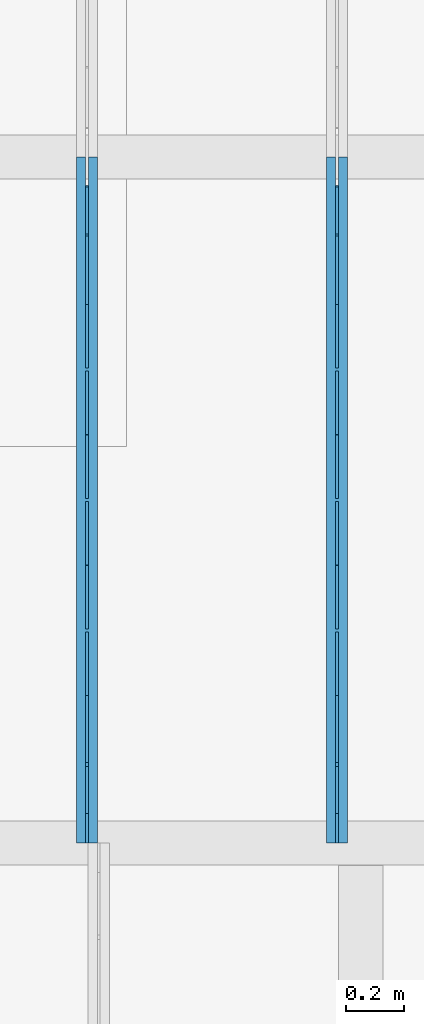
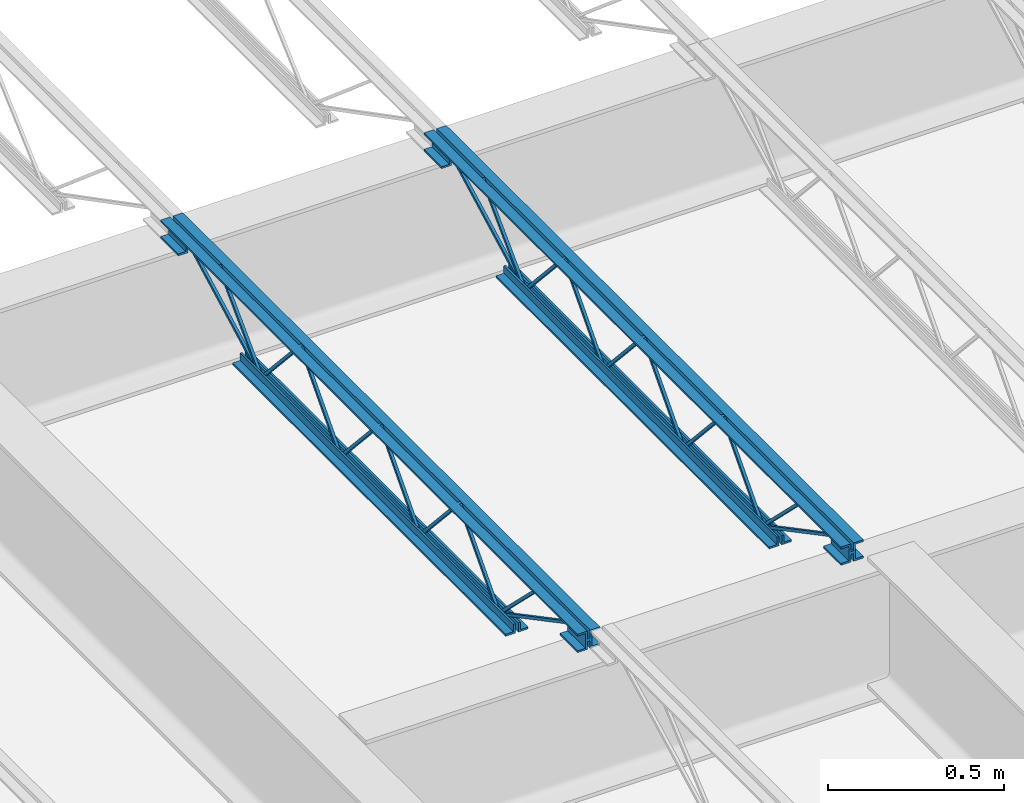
# One storey, part 57 of 75: 2 beams.
"""IFC2X3 building model written with IfcOpenShell, lengths in metres."""

from ifc_helpers import new_model, entity, si_unit, converted_unit, frame, origin, place, context, project, spatial, face_set, surface_model, element, save


model = new_model("IFC2X3")

# Units and contexts
model_context = context("Model", 3, precision=1e-09, world=origin())
plan_context = context("Plan", 3, precision=1e-09, world=origin())
ifc_project = project(units=[si_unit("LENGTHUNIT", "METRE"), si_unit("AREAUNIT", "SQUARE_METRE"), si_unit("VOLUMEUNIT", "CUBIC_METRE"), converted_unit("PLANEANGLEUNIT", "DEGREE", entity("IfcRatioMeasure", 0.01745329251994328), si_unit("PLANEANGLEUNIT", "RADIAN"), dimensions=[0, 0, 0, 0, 0, 0, 0]), si_unit("TIMEUNIT", "SECOND")], contexts=[model_context, plan_context])

# Site, building, storey
site_placement = place(None, origin())
site = spatial("IfcSite", under=ifc_project, at=site_placement, Name="Default", CompositionType="ELEMENT")
building_placement = place(site_placement, origin())
building = spatial("IfcBuilding", under=site, at=building_placement, CompositionType="ELEMENT")
storey_placement = place(building_placement, origin())
storey = spatial("IfcBuildingStorey", under=building, at=storey_placement, Name="First Floor", CompositionType="ELEMENT", Elevation=-3.531500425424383e-13)

# Beams
beam_1_placement = place(storey_placement, frame((-19.23341250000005, 42.41251390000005, 4.214000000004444)))
element("IfcBeam", 1, at=beam_1_placement, inside=storey, Name="M_K-Series Bar Joist-Rod Web:10K1:10K1", ObjectType="M_K-Series Bar Joist-Rod Web:10K1", context=model_context, shape_type="SurfaceModel", body=[
    surface_model("IfcFaceBasedSurfaceModel", [(0.04149999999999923, 0.9583333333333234, 0.01110000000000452), (0.03200000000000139, 0.9583333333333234, 0.01110000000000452), (0.03200000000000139, 0.9583333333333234, 0.001600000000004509), (0.04149999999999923, 0.9583333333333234, 0.001600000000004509), (0.03199999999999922, 0.9594035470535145, 0.01110000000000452), (0.04149999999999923, 0.9594035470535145, 0.01110000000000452), (0.03200000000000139, 0.9636131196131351, 0.001600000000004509), (0.03200000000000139, 1.182429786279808, 0.2429000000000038), (0.03200000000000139, 1.184570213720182, 0.2429000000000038), (0.03200000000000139, 1.403386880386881, 0.001600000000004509), (0.03200000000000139, 1.408666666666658, 0.001600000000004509), (0.03200000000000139, 1.408666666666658, 0.01110000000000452), (0.03200000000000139, 1.40759645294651, 0.01110000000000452), (0.03200000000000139, 1.188779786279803, 0.2524000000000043), (0.03200000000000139, 1.178220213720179, 0.2524000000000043), (0.0415000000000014, 0.9636131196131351, 0.001600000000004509), (0.04149999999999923, 1.1824297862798, 0.2429000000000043), (0.04149999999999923, 1.184570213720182, 0.2429000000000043), (0.04149999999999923, 1.403386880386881, 0.001600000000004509), (0.04149999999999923, 1.408666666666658, 0.001600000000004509), (0.04149999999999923, 1.408666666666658, 0.01110000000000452), (0.04149999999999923, 1.40759645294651, 0.01110000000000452), (0.04149999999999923, 1.188779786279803, 0.2524000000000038), (0.04149999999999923, 1.178220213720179, 0.2524000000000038), (0.04149999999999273, 1.40866666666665, 0.0110999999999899), (0.03199999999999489, 1.40866666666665, 0.0110999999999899), (0.03199999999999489, 1.40866666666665, 0.001599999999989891), (0.04149999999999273, 1.40866666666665, 0.001599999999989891), (0.03199999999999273, 1.409736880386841, 0.0110999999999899), (0.04149999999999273, 1.409736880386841, 0.0110999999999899), (0.03199999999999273, 1.413946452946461, 0.001599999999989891), (0.03199999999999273, 1.632763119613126, 0.2428999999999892), (0.03199999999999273, 1.6349035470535, 0.2428999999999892), (0.03199999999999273, 1.853720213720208, 0.001599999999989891), (0.03199999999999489, 1.858999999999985, 0.001599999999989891), (0.03199999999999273, 1.858999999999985, 0.0110999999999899), (0.03199999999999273, 1.857929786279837, 0.0110999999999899), (0.03199999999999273, 1.639113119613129, 0.2523999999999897), (0.03199999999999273, 1.628553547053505, 0.2523999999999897), (0.04149999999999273, 1.413946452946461, 0.001599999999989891), (0.04149999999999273, 1.632763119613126, 0.2428999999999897), (0.04149999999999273, 1.634903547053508, 0.2428999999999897), (0.04149999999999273, 1.853720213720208, 0.001599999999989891), (0.04149999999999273, 1.858999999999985, 0.001599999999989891), (0.04149999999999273, 1.858999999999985, 0.0110999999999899), (0.04149999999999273, 1.857929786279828, 0.0110999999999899), (0.04149999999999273, 1.639113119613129, 0.2523999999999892), (0.04149999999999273, 1.628553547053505, 0.2523999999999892), (0.04149999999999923, 0.5080000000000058, 0.01110000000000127), (0.03200000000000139, 0.5080000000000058, 0.01110000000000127), (0.03200000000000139, 0.5080000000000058, 0.001600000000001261), (0.04149999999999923, 0.5080000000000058, 0.001600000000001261), (0.03199999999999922, 0.5090702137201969, 0.01110000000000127), (0.04149999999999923, 0.5090702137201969, 0.01110000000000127), (0.03200000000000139, 0.5132797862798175, 0.001600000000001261), (0.03200000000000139, 0.7320964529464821, 0.2429000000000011), (0.03200000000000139, 0.7342368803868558, 0.2429000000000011), (0.03200000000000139, 0.9530535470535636, 0.001600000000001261), (0.03200000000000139, 0.9583333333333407, 0.001600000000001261), (0.03200000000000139, 0.9583333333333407, 0.01110000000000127), (0.03200000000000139, 0.9572631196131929, 0.01110000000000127), (0.03200000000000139, 0.738446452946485, 0.2524000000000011), (0.03200000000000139, 0.7278868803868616, 0.2524000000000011), (0.0415000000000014, 0.5132797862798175, 0.001600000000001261), (0.04149999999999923, 0.7320964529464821, 0.2429000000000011), (0.04149999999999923, 0.7342368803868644, 0.2429000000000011), (0.04149999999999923, 0.9530535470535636, 0.001600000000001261), (0.04149999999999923, 0.9583333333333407, 0.001600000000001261), (0.04149999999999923, 0.9583333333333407, 0.01110000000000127), (0.04149999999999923, 0.9572631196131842, 0.01110000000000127), (0.04149999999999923, 0.738446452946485, 0.2524000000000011), (0.04149999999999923, 0.7278868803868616, 0.2524000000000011), (0.03199999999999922, 2.366999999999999, 0.2539999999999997), (0.0, 2.366999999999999, 0.2539999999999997), (0.0, 2.366999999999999, 0.2474999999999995), (0.02549999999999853, 2.366999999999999, 0.2474999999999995), (0.02549999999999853, 2.366999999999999, 0.2219999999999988), (0.03199999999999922, 2.366999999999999, 0.2219999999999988), (0.04149999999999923, 2.366999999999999, 0.2539999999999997), (0.04149999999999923, 2.366999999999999, 0.2219999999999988), (0.04799999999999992, 2.366999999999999, 0.2219999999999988), (0.04799999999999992, 2.366999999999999, 0.2474999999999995), (0.07349999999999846, 2.366999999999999, 0.2474999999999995), (0.07349999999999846, 2.366999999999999, 0.2539999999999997), (0.03199999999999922, 0.0, 0.2539999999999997), (0.0, 0.0, 0.2539999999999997), (0.0, 0.0, 0.2474999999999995), (0.02549999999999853, 0.0, 0.2474999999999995), (0.02549999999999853, 0.0, 0.2219999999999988), (0.03199999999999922, 0.0, 0.2219999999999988), (0.04149999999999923, 0.0, 0.2539999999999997), (0.04149999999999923, 0.0, 0.2219999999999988), (0.04799999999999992, 0.0, 0.2219999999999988), (0.04799999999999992, 0.0, 0.2474999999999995), (0.07349999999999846, 0.0, 0.2474999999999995), (0.07349999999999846, 0.0, 0.2539999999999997), (0.04149999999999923, 0.09999999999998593, 0.1904999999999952), (0.07349999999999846, 0.09999999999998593, 0.1904999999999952), (0.07349999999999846, 0.09999999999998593, 0.1969999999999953), (0.04799999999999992, 0.09999999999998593, 0.1969999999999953), (0.04799999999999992, 0.09999999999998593, 0.2219999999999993), (0.04149999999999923, 0.09999999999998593, 0.2219999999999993), (0.0, 0.09999999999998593, 0.1904999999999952), (0.03199999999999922, 0.09999999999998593, 0.1904999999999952), (0.03199999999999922, 0.09999999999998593, 0.2219999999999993), (0.02549999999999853, 0.09999999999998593, 0.2219999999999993), (0.02549999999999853, 0.09999999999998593, 0.1969999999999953), (0.0, 0.09999999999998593, 0.1969999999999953), (0.04149999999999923, 0.0, 0.1904999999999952), (0.07349999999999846, 0.0, 0.1904999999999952), (0.07349999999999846, 0.0, 0.1969999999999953), (0.04799999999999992, 0.0, 0.1969999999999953), (0.04799999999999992, 0.0, 0.2219999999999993), (0.04149999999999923, 0.0, 0.2219999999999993), (0.0, 0.0, 0.1904999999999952), (0.03199999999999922, 0.0, 0.1904999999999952), (0.03199999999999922, 0.0, 0.2219999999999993), (0.02549999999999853, 0.0, 0.2219999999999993), (0.02549999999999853, 0.0, 0.1969999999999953), (0.0, 0.0, 0.1969999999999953), (0.03199999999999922, 2.366999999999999, 0.1904999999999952), (0.03199999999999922, 2.366999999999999, 0.2219999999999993), (0.0255000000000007, 2.366999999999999, 0.2219999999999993), (0.0255000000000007, 2.366999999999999, 0.1969999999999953), (0.0, 2.366999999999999, 0.1969999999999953), (0.0, 2.366999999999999, 0.1904999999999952), (0.04149999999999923, 2.366999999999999, 0.1904999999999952), (0.07350000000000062, 2.366999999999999, 0.1904999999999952), (0.07350000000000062, 2.366999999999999, 0.1969999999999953), (0.04799999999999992, 2.366999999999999, 0.1969999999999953), (0.04799999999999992, 2.366999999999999, 0.2219999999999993), (0.04149999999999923, 2.366999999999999, 0.2219999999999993), (0.03199999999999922, 2.266999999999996, 0.1904999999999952), (0.03199999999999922, 2.266999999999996, 0.2219999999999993), (0.0255000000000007, 2.266999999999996, 0.2219999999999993), (0.0255000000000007, 2.266999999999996, 0.1969999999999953), (0.0, 2.266999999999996, 0.1969999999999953), (0.0, 2.266999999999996, 0.1904999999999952), (0.04149999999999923, 2.266999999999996, 0.1904999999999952), (0.07350000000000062, 2.266999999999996, 0.1904999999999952), (0.07350000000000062, 2.266999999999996, 0.1969999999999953), (0.04799999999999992, 2.266999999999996, 0.1969999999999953), (0.04799999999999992, 2.266999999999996, 0.2219999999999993), (0.04149999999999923, 2.266999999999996, 0.2219999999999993), (0.03199999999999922, 1.959000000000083, 0.0), (0.03199999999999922, 1.959000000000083, 0.03199999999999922), (0.02549999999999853, 1.959000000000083, 0.03199999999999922), (0.02549999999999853, 1.959000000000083, 0.006500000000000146), (0.0, 1.959000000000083, 0.006500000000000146), (0.0, 1.959000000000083, 0.0), (0.04149999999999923, 1.959000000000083, 0.0), (0.07349999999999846, 1.959000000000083, 0.0), (0.07349999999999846, 1.959000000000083, 0.006500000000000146), (0.04799999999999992, 1.959000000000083, 0.006500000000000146), (0.04799999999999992, 1.959000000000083, 0.03199999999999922), (0.04149999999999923, 1.959000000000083, 0.03199999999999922), (0.03199999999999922, 0.4080000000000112, 0.0), (0.03199999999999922, 0.4080000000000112, 0.03199999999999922), (0.02549999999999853, 0.4080000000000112, 0.03199999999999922), (0.02549999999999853, 0.4080000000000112, 0.006500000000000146), (0.0, 0.4080000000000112, 0.006500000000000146), (0.0, 0.4080000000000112, 0.0), (0.04149999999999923, 0.4080000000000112, 0.0), (0.07349999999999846, 0.4080000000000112, 0.0), (0.07349999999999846, 0.4080000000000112, 0.006500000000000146), (0.04799999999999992, 0.4080000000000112, 0.006500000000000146), (0.04799999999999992, 0.4080000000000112, 0.03199999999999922), (0.04149999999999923, 0.4080000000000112, 0.03199999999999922), (0.04149999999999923, 0.5102196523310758, 0.01054948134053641), (0.03200000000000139, 0.5102196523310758, 0.01054948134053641), (0.03200000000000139, 0.5057803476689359, 0.002150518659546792), (0.04149999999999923, 0.5057803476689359, 0.002150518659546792), (0.04149999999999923, 0.1011780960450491, 0.2267499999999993), (0.04149999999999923, 0.0, 0.2267499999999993), (0.04149999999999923, 0.0, 0.2172499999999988), (0.04149999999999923, 0.09882190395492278, 0.2172499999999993), (0.03199999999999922, 0.09882190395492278, 0.2172499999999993), (0.03200000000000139, 0.1011780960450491, 0.2267499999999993), (0.03200000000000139, 0.0, 0.2267499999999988), (0.03200000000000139, 0.0, 0.2172499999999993), (0.04149999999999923, 0.2628761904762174, 0.2397000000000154), (0.03200000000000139, 0.2628761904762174, 0.2397000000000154), (0.03200000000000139, 0.2628761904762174, 0.2302000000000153), (0.04149999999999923, 0.2628761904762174, 0.2302000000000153), (0.03199999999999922, 0.2775206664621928, 0.2397000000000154), (0.04149999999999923, 0.2775206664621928, 0.2397000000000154), (0.03200000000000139, 0.2736317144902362, 0.2302000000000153), (0.03200000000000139, 0.5046692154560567, 0.002963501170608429), (0.03200000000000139, 0.5113307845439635, 0.00973649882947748), (0.0415000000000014, 0.2736317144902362, 0.2302000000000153), (0.04149999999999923, 0.5046692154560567, 0.002963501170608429), (0.04149999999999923, 0.5113307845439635, 0.00973649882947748), (0.04149999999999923, 2.269219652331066, 0.2178005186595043), (0.04149999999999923, 2.264780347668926, 0.2261994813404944), (0.03200000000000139, 2.264780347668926, 0.2261994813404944), (0.03200000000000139, 2.269219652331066, 0.2178005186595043), (0.04149999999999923, 1.861219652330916, 0.002150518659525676), (0.04149999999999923, 1.856780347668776, 0.01054948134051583), (0.03200000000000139, 1.856780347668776, 0.01054948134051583), (0.03200000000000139, 1.861219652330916, 0.002150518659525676), (0.04149999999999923, 2.102050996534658, 0.2443025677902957), (0.04149999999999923, 2.095310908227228, 0.2509974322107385), (0.03200000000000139, 2.095310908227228, 0.2509974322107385), (0.03200000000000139, 2.102050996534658, 0.2443025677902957), (0.04149999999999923, 1.862370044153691, 0.0030025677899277), (0.04149999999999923, 1.855629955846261, 0.009697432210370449), (0.03200000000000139, 1.855629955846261, 0.009697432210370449), (0.03200000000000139, 1.862370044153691, 0.0030025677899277)], [face_set([[[0, 1, 2, 3]], [[1, 4, 5, 0]], [[2, 6, 7, 8, 9, 10, 11, 12, 13, 14, 4, 1]], [[3, 2, 6, 15]], [[0, 3, 15, 16, 17, 18, 19, 20, 21, 22, 23, 5]], [[4, 5, 23, 14]], [[15, 16, 7, 6]], [[14, 13, 22, 23]], [[16, 7, 8, 17]], [[13, 12, 21, 22]], [[17, 8, 9, 18]], [[20, 11, 10, 19]], [[12, 11, 20, 21]], [[18, 9, 10, 19]]]), face_set([[[24, 25, 26, 27]], [[25, 28, 29, 24]], [[26, 30, 31, 32, 33, 34, 35, 36, 37, 38, 28, 25]], [[27, 26, 30, 39]], [[24, 27, 39, 40, 41, 42, 43, 44, 45, 46, 47, 29]], [[28, 29, 47, 38]], [[39, 40, 31, 30]], [[38, 37, 46, 47]], [[40, 31, 32, 41]], [[37, 36, 45, 46]], [[41, 32, 33, 42]], [[44, 35, 34, 43]], [[36, 35, 44, 45]], [[42, 33, 34, 43]]]), face_set([[[48, 49, 50, 51]], [[49, 52, 53, 48]], [[50, 54, 55, 56, 57, 58, 59, 60, 61, 62, 52, 49]], [[51, 50, 54, 63]], [[48, 51, 63, 64, 65, 66, 67, 68, 69, 70, 71, 53]], [[52, 53, 71, 62]], [[63, 64, 55, 54]], [[62, 61, 70, 71]], [[64, 55, 56, 65]], [[61, 60, 69, 70]], [[65, 56, 57, 66]], [[68, 59, 58, 67]], [[60, 59, 68, 69]], [[66, 57, 58, 67]]]), face_set([[[72, 73, 74, 75, 76, 77]], [[78, 79, 80, 81, 82, 83]], [[84, 85, 86, 87, 88, 89]], [[90, 91, 92, 93, 94, 95]], [[77, 72, 84, 89]], [[76, 77, 89, 88]], [[75, 87, 88, 76]], [[74, 75, 87, 86]], [[73, 85, 86, 74]], [[72, 84, 85, 73]], [[83, 95, 90, 78]], [[82, 83, 95, 94]], [[81, 82, 94, 93]], [[80, 81, 93, 92]], [[79, 80, 92, 91]], [[78, 90, 91, 79]]]), face_set([[[96, 97, 98, 99, 100, 101]], [[102, 103, 104, 105, 106, 107]], [[108, 109, 110, 111, 112, 113]], [[114, 115, 116, 117, 118, 119]], [[101, 113, 108, 96]], [[100, 112, 113, 101]], [[99, 100, 112, 111]], [[98, 110, 111, 99]], [[97, 98, 110, 109]], [[96, 97, 109, 108]], [[107, 119, 114, 102]], [[106, 118, 119, 107]], [[105, 117, 118, 106]], [[104, 116, 117, 105]], [[103, 104, 116, 115]], [[102, 103, 115, 114]]]), face_set([[[120, 121, 122, 123, 124, 125]], [[126, 127, 128, 129, 130, 131]], [[132, 133, 134, 135, 136, 137]], [[138, 139, 140, 141, 142, 143]], [[125, 120, 132, 137]], [[124, 136, 137, 125]], [[123, 135, 136, 124]], [[122, 134, 135, 123]], [[121, 133, 134, 122]], [[120, 121, 133, 132]], [[131, 143, 138, 126]], [[130, 142, 143, 131]], [[129, 130, 142, 141]], [[128, 140, 141, 129]], [[127, 128, 140, 139]], [[126, 127, 139, 138]]]), face_set([[[144, 145, 146, 147, 148, 149]], [[150, 151, 152, 153, 154, 155]], [[156, 157, 158, 159, 160, 161]], [[162, 163, 164, 165, 166, 167]], [[149, 144, 156, 161]], [[148, 160, 161, 149]], [[147, 159, 160, 148]], [[146, 158, 159, 147]], [[145, 157, 158, 146]], [[144, 145, 157, 156]], [[155, 167, 162, 150]], [[154, 166, 167, 155]], [[153, 154, 166, 165]], [[152, 164, 165, 153]], [[151, 152, 164, 163]], [[150, 151, 163, 162]]]), face_set([[[168, 169, 170, 171]], [[171, 168, 172, 173, 174, 175]], [[170, 171, 175, 176]], [[169, 177, 178, 179, 176, 170]], [[168, 172, 177, 169]], [[173, 178, 179, 174]], [[176, 175, 174, 179]], [[172, 173, 178, 177]]]), face_set([[[180, 181, 182, 183]], [[181, 184, 185, 180]], [[182, 186, 187, 188, 184, 181]], [[183, 182, 186, 189]], [[180, 183, 189, 190, 191, 185]], [[191, 188, 187, 190]], [[184, 188, 191, 185]], [[189, 186, 187, 190]]]), face_set([[[192, 193, 194, 195]], [[196, 197, 198, 199]], [[195, 199, 196, 192]], [[194, 198, 199, 195]], [[193, 194, 198, 197]], [[192, 193, 197, 196]]]), face_set([[[200, 201, 202, 203]], [[204, 205, 206, 207]], [[203, 207, 204, 200]], [[202, 206, 207, 203]], [[201, 202, 206, 205]], [[200, 201, 205, 204]]])]),
])
beam_2_placement = place(storey_placement, frame((-18.37007500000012, 42.41251390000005, 4.214000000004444)))
element("IfcBeam", 2, at=beam_2_placement, inside=storey, Name="M_K-Series Bar Joist-Rod Web:10K1:10K1", ObjectType="M_K-Series Bar Joist-Rod Web:10K1", context=model_context, shape_type="SurfaceModel", body=[
    surface_model("IfcFaceBasedSurfaceModel", [(0.04149999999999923, 0.9583333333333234, 0.01110000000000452), (0.03200000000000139, 0.9583333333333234, 0.01110000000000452), (0.03200000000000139, 0.9583333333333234, 0.001600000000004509), (0.04149999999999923, 0.9583333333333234, 0.001600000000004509), (0.03199999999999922, 0.9594035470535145, 0.01110000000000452), (0.04149999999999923, 0.9594035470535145, 0.01110000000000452), (0.03200000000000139, 0.9636131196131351, 0.001600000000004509), (0.03200000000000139, 1.182429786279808, 0.2429000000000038), (0.03200000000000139, 1.184570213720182, 0.2429000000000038), (0.03200000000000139, 1.403386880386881, 0.001600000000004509), (0.03200000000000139, 1.408666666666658, 0.001600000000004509), (0.03200000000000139, 1.408666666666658, 0.01110000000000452), (0.03200000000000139, 1.40759645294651, 0.01110000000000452), (0.03200000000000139, 1.188779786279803, 0.2524000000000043), (0.03200000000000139, 1.178220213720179, 0.2524000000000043), (0.0415000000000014, 0.9636131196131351, 0.001600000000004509), (0.04149999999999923, 1.1824297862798, 0.2429000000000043), (0.04149999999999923, 1.184570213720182, 0.2429000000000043), (0.04149999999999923, 1.403386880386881, 0.001600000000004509), (0.04149999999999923, 1.408666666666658, 0.001600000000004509), (0.04149999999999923, 1.408666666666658, 0.01110000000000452), (0.04149999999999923, 1.40759645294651, 0.01110000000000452), (0.04149999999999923, 1.188779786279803, 0.2524000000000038), (0.04149999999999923, 1.178220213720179, 0.2524000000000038), (0.04149999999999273, 1.40866666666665, 0.0110999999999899), (0.03199999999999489, 1.40866666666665, 0.0110999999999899), (0.03199999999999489, 1.40866666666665, 0.001599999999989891), (0.04149999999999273, 1.40866666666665, 0.001599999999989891), (0.03199999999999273, 1.409736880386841, 0.0110999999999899), (0.04149999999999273, 1.409736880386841, 0.0110999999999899), (0.03199999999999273, 1.413946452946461, 0.001599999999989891), (0.03199999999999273, 1.632763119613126, 0.2428999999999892), (0.03199999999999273, 1.6349035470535, 0.2428999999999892), (0.03199999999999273, 1.853720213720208, 0.001599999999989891), (0.03199999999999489, 1.858999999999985, 0.001599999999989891), (0.03199999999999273, 1.858999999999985, 0.0110999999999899), (0.03199999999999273, 1.857929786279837, 0.0110999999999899), (0.03199999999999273, 1.639113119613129, 0.2523999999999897), (0.03199999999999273, 1.628553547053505, 0.2523999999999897), (0.04149999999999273, 1.413946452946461, 0.001599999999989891), (0.04149999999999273, 1.632763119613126, 0.2428999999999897), (0.04149999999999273, 1.634903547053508, 0.2428999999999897), (0.04149999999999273, 1.853720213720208, 0.001599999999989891), (0.04149999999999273, 1.858999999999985, 0.001599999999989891), (0.04149999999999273, 1.858999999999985, 0.0110999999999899), (0.04149999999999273, 1.857929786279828, 0.0110999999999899), (0.04149999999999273, 1.639113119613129, 0.2523999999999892), (0.04149999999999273, 1.628553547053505, 0.2523999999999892), (0.04149999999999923, 0.5080000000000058, 0.01110000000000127), (0.03200000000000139, 0.5080000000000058, 0.01110000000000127), (0.03200000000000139, 0.5080000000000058, 0.001600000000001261), (0.04149999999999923, 0.5080000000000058, 0.001600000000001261), (0.03199999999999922, 0.5090702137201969, 0.01110000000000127), (0.04149999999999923, 0.5090702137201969, 0.01110000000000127), (0.03200000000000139, 0.5132797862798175, 0.001600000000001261), (0.03200000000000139, 0.7320964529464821, 0.2429000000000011), (0.03200000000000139, 0.7342368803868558, 0.2429000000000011), (0.03200000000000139, 0.9530535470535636, 0.001600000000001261), (0.03200000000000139, 0.9583333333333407, 0.001600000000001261), (0.03200000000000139, 0.9583333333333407, 0.01110000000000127), (0.03200000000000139, 0.9572631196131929, 0.01110000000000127), (0.03200000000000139, 0.738446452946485, 0.2524000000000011), (0.03200000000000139, 0.7278868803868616, 0.2524000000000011), (0.0415000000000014, 0.5132797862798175, 0.001600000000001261), (0.04149999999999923, 0.7320964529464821, 0.2429000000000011), (0.04149999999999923, 0.7342368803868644, 0.2429000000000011), (0.04149999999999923, 0.9530535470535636, 0.001600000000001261), (0.04149999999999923, 0.9583333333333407, 0.001600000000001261), (0.04149999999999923, 0.9583333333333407, 0.01110000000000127), (0.04149999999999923, 0.9572631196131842, 0.01110000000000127), (0.04149999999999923, 0.738446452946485, 0.2524000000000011), (0.04149999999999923, 0.7278868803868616, 0.2524000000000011), (0.03199999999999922, 2.366999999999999, 0.2539999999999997), (0.0, 2.366999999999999, 0.2539999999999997), (0.0, 2.366999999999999, 0.2474999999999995), (0.02549999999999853, 2.366999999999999, 0.2474999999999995), (0.02549999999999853, 2.366999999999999, 0.2219999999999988), (0.03199999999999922, 2.366999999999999, 0.2219999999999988), (0.04149999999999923, 2.366999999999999, 0.2539999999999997), (0.04149999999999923, 2.366999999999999, 0.2219999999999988), (0.04799999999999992, 2.366999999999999, 0.2219999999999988), (0.04799999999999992, 2.366999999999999, 0.2474999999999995), (0.07349999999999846, 2.366999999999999, 0.2474999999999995), (0.07349999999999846, 2.366999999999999, 0.2539999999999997), (0.03199999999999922, 0.0, 0.2539999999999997), (0.0, 0.0, 0.2539999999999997), (0.0, 0.0, 0.2474999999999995), (0.02549999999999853, 0.0, 0.2474999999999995), (0.02549999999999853, 0.0, 0.2219999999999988), (0.03199999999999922, 0.0, 0.2219999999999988), (0.04149999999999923, 0.0, 0.2539999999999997), (0.04149999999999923, 0.0, 0.2219999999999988), (0.04799999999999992, 0.0, 0.2219999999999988), (0.04799999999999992, 0.0, 0.2474999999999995), (0.07349999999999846, 0.0, 0.2474999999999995), (0.07349999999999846, 0.0, 0.2539999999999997), (0.04149999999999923, 0.09999999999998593, 0.1904999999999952), (0.07349999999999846, 0.09999999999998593, 0.1904999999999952), (0.07349999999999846, 0.09999999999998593, 0.1969999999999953), (0.04799999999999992, 0.09999999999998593, 0.1969999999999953), (0.04799999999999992, 0.09999999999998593, 0.2219999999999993), (0.04149999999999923, 0.09999999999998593, 0.2219999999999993), (0.0, 0.09999999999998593, 0.1904999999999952), (0.03199999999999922, 0.09999999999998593, 0.1904999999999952), (0.03199999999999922, 0.09999999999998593, 0.2219999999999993), (0.02549999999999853, 0.09999999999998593, 0.2219999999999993), (0.02549999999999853, 0.09999999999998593, 0.1969999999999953), (0.0, 0.09999999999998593, 0.1969999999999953), (0.04149999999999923, 0.0, 0.1904999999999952), (0.07349999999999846, 0.0, 0.1904999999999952), (0.07349999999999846, 0.0, 0.1969999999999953), (0.04799999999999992, 0.0, 0.1969999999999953), (0.04799999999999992, 0.0, 0.2219999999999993), (0.04149999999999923, 0.0, 0.2219999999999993), (0.0, 0.0, 0.1904999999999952), (0.03199999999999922, 0.0, 0.1904999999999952), (0.03199999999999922, 0.0, 0.2219999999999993), (0.02549999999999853, 0.0, 0.2219999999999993), (0.02549999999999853, 0.0, 0.1969999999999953), (0.0, 0.0, 0.1969999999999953), (0.03199999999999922, 2.366999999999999, 0.1904999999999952), (0.03199999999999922, 2.366999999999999, 0.2219999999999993), (0.0255000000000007, 2.366999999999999, 0.2219999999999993), (0.0255000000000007, 2.366999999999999, 0.1969999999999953), (0.0, 2.366999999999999, 0.1969999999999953), (0.0, 2.366999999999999, 0.1904999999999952), (0.04149999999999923, 2.366999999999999, 0.1904999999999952), (0.07350000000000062, 2.366999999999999, 0.1904999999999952), (0.07350000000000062, 2.366999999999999, 0.1969999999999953), (0.04799999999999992, 2.366999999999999, 0.1969999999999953), (0.04799999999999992, 2.366999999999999, 0.2219999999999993), (0.04149999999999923, 2.366999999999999, 0.2219999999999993), (0.03199999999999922, 2.266999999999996, 0.1904999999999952), (0.03199999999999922, 2.266999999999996, 0.2219999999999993), (0.0255000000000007, 2.266999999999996, 0.2219999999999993), (0.0255000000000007, 2.266999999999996, 0.1969999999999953), (0.0, 2.266999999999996, 0.1969999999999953), (0.0, 2.266999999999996, 0.1904999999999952), (0.04149999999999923, 2.266999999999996, 0.1904999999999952), (0.07350000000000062, 2.266999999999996, 0.1904999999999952), (0.07350000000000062, 2.266999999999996, 0.1969999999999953), (0.04799999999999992, 2.266999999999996, 0.1969999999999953), (0.04799999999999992, 2.266999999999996, 0.2219999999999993), (0.04149999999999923, 2.266999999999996, 0.2219999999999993), (0.03199999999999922, 1.959000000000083, 0.0), (0.03199999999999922, 1.959000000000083, 0.03199999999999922), (0.02549999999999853, 1.959000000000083, 0.03199999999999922), (0.02549999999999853, 1.959000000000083, 0.006500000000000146), (0.0, 1.959000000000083, 0.006500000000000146), (0.0, 1.959000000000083, 0.0), (0.04149999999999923, 1.959000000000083, 0.0), (0.07349999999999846, 1.959000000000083, 0.0), (0.07349999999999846, 1.959000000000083, 0.006500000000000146), (0.04799999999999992, 1.959000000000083, 0.006500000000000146), (0.04799999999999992, 1.959000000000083, 0.03199999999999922), (0.04149999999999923, 1.959000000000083, 0.03199999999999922), (0.03199999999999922, 0.4080000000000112, 0.0), (0.03199999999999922, 0.4080000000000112, 0.03199999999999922), (0.02549999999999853, 0.4080000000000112, 0.03199999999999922), (0.02549999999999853, 0.4080000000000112, 0.006500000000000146), (0.0, 0.4080000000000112, 0.006500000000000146), (0.0, 0.4080000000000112, 0.0), (0.04149999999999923, 0.4080000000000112, 0.0), (0.07349999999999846, 0.4080000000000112, 0.0), (0.07349999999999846, 0.4080000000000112, 0.006500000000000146), (0.04799999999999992, 0.4080000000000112, 0.006500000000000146), (0.04799999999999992, 0.4080000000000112, 0.03199999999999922), (0.04149999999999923, 0.4080000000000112, 0.03199999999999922), (0.04149999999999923, 0.5102196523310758, 0.01054948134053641), (0.03200000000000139, 0.5102196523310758, 0.01054948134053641), (0.03200000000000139, 0.5057803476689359, 0.002150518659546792), (0.04149999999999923, 0.5057803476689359, 0.002150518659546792), (0.04149999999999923, 0.1011780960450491, 0.2267499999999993), (0.04149999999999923, 0.0, 0.2267499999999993), (0.04149999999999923, 0.0, 0.2172499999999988), (0.04149999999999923, 0.09882190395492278, 0.2172499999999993), (0.03199999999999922, 0.09882190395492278, 0.2172499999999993), (0.03200000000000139, 0.1011780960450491, 0.2267499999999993), (0.03200000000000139, 0.0, 0.2267499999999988), (0.03200000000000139, 0.0, 0.2172499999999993), (0.04149999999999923, 0.2628761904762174, 0.2397000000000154), (0.03200000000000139, 0.2628761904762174, 0.2397000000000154), (0.03200000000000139, 0.2628761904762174, 0.2302000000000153), (0.04149999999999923, 0.2628761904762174, 0.2302000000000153), (0.03199999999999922, 0.2775206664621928, 0.2397000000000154), (0.04149999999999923, 0.2775206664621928, 0.2397000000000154), (0.03200000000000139, 0.2736317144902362, 0.2302000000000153), (0.03200000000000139, 0.5046692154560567, 0.002963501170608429), (0.03200000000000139, 0.5113307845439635, 0.00973649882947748), (0.0415000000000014, 0.2736317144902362, 0.2302000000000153), (0.04149999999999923, 0.5046692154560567, 0.002963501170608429), (0.04149999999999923, 0.5113307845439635, 0.00973649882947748), (0.04149999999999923, 2.269219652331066, 0.2178005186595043), (0.04149999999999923, 2.264780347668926, 0.2261994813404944), (0.03200000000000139, 2.264780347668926, 0.2261994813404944), (0.03200000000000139, 2.269219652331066, 0.2178005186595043), (0.04149999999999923, 1.861219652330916, 0.002150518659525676), (0.04149999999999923, 1.856780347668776, 0.01054948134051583), (0.03200000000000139, 1.856780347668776, 0.01054948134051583), (0.03200000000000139, 1.861219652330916, 0.002150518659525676), (0.04149999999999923, 2.102050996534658, 0.2443025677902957), (0.04149999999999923, 2.095310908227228, 0.2509974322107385), (0.03200000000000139, 2.095310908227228, 0.2509974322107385), (0.03200000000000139, 2.102050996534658, 0.2443025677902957), (0.04149999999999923, 1.862370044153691, 0.0030025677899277), (0.04149999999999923, 1.855629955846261, 0.009697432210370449), (0.03200000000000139, 1.855629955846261, 0.009697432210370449), (0.03200000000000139, 1.862370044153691, 0.0030025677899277)], [face_set([[[0, 1, 2, 3]], [[1, 4, 5, 0]], [[2, 6, 7, 8, 9, 10, 11, 12, 13, 14, 4, 1]], [[3, 2, 6, 15]], [[0, 3, 15, 16, 17, 18, 19, 20, 21, 22, 23, 5]], [[4, 5, 23, 14]], [[15, 16, 7, 6]], [[14, 13, 22, 23]], [[16, 7, 8, 17]], [[13, 12, 21, 22]], [[17, 8, 9, 18]], [[20, 11, 10, 19]], [[12, 11, 20, 21]], [[18, 9, 10, 19]]]), face_set([[[24, 25, 26, 27]], [[25, 28, 29, 24]], [[26, 30, 31, 32, 33, 34, 35, 36, 37, 38, 28, 25]], [[27, 26, 30, 39]], [[24, 27, 39, 40, 41, 42, 43, 44, 45, 46, 47, 29]], [[28, 29, 47, 38]], [[39, 40, 31, 30]], [[38, 37, 46, 47]], [[40, 31, 32, 41]], [[37, 36, 45, 46]], [[41, 32, 33, 42]], [[44, 35, 34, 43]], [[36, 35, 44, 45]], [[42, 33, 34, 43]]]), face_set([[[48, 49, 50, 51]], [[49, 52, 53, 48]], [[50, 54, 55, 56, 57, 58, 59, 60, 61, 62, 52, 49]], [[51, 50, 54, 63]], [[48, 51, 63, 64, 65, 66, 67, 68, 69, 70, 71, 53]], [[52, 53, 71, 62]], [[63, 64, 55, 54]], [[62, 61, 70, 71]], [[64, 55, 56, 65]], [[61, 60, 69, 70]], [[65, 56, 57, 66]], [[68, 59, 58, 67]], [[60, 59, 68, 69]], [[66, 57, 58, 67]]]), face_set([[[72, 73, 74, 75, 76, 77]], [[78, 79, 80, 81, 82, 83]], [[84, 85, 86, 87, 88, 89]], [[90, 91, 92, 93, 94, 95]], [[77, 72, 84, 89]], [[76, 77, 89, 88]], [[75, 87, 88, 76]], [[74, 75, 87, 86]], [[73, 85, 86, 74]], [[72, 84, 85, 73]], [[83, 95, 90, 78]], [[82, 83, 95, 94]], [[81, 82, 94, 93]], [[80, 81, 93, 92]], [[79, 80, 92, 91]], [[78, 90, 91, 79]]]), face_set([[[96, 97, 98, 99, 100, 101]], [[102, 103, 104, 105, 106, 107]], [[108, 109, 110, 111, 112, 113]], [[114, 115, 116, 117, 118, 119]], [[101, 113, 108, 96]], [[100, 112, 113, 101]], [[99, 100, 112, 111]], [[98, 110, 111, 99]], [[97, 98, 110, 109]], [[96, 97, 109, 108]], [[107, 119, 114, 102]], [[106, 118, 119, 107]], [[105, 117, 118, 106]], [[104, 116, 117, 105]], [[103, 104, 116, 115]], [[102, 103, 115, 114]]]), face_set([[[120, 121, 122, 123, 124, 125]], [[126, 127, 128, 129, 130, 131]], [[132, 133, 134, 135, 136, 137]], [[138, 139, 140, 141, 142, 143]], [[125, 120, 132, 137]], [[124, 136, 137, 125]], [[123, 135, 136, 124]], [[122, 134, 135, 123]], [[121, 133, 134, 122]], [[120, 121, 133, 132]], [[131, 143, 138, 126]], [[130, 142, 143, 131]], [[129, 130, 142, 141]], [[128, 140, 141, 129]], [[127, 128, 140, 139]], [[126, 127, 139, 138]]]), face_set([[[144, 145, 146, 147, 148, 149]], [[150, 151, 152, 153, 154, 155]], [[156, 157, 158, 159, 160, 161]], [[162, 163, 164, 165, 166, 167]], [[149, 144, 156, 161]], [[148, 160, 161, 149]], [[147, 159, 160, 148]], [[146, 158, 159, 147]], [[145, 157, 158, 146]], [[144, 145, 157, 156]], [[155, 167, 162, 150]], [[154, 166, 167, 155]], [[153, 154, 166, 165]], [[152, 164, 165, 153]], [[151, 152, 164, 163]], [[150, 151, 163, 162]]]), face_set([[[168, 169, 170, 171]], [[171, 168, 172, 173, 174, 175]], [[170, 171, 175, 176]], [[169, 177, 178, 179, 176, 170]], [[168, 172, 177, 169]], [[173, 178, 179, 174]], [[176, 175, 174, 179]], [[172, 173, 178, 177]]]), face_set([[[180, 181, 182, 183]], [[181, 184, 185, 180]], [[182, 186, 187, 188, 184, 181]], [[183, 182, 186, 189]], [[180, 183, 189, 190, 191, 185]], [[191, 188, 187, 190]], [[184, 188, 191, 185]], [[189, 186, 187, 190]]]), face_set([[[192, 193, 194, 195]], [[196, 197, 198, 199]], [[195, 199, 196, 192]], [[194, 198, 199, 195]], [[193, 194, 198, 197]], [[192, 193, 197, 196]]]), face_set([[[200, 201, 202, 203]], [[204, 205, 206, 207]], [[203, 207, 204, 200]], [[202, 206, 207, 203]], [[201, 202, 206, 205]], [[200, 201, 205, 204]]])]),
])

save(model, "model.ifc")
